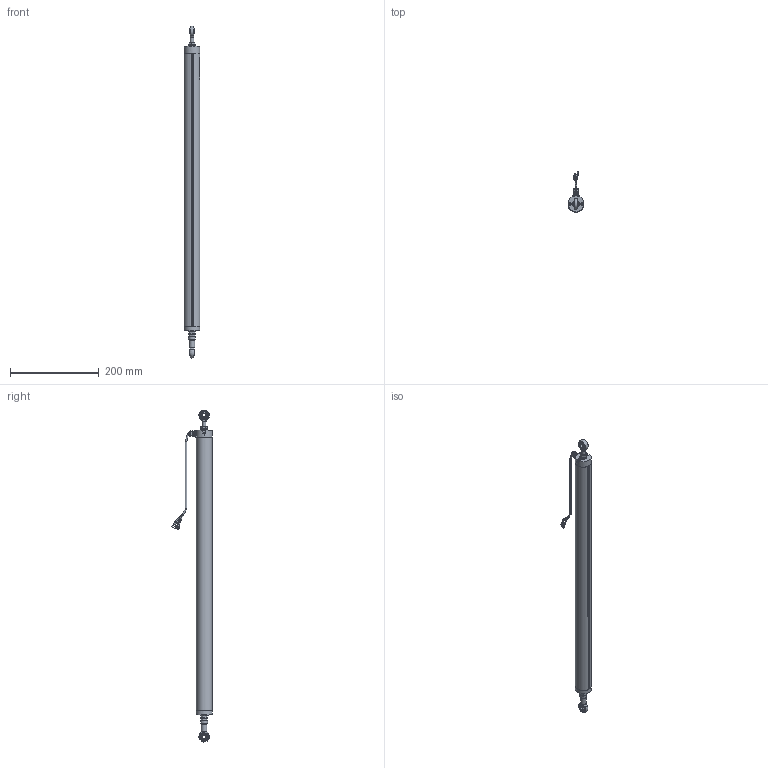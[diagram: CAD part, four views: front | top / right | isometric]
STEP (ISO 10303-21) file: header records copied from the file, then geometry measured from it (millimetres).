
FILE_DESCRIPTION(/* description */ (''),/* implementation_level */ '2;1');
FILE_NAME(/* name */ 'C:\Users\Justin\Documents\CAD\The Sensor Connection\LPPS\LPPS-36B Series\3D\LPPS-36B-550\LPPS 36B-550 Assembly.stp',/* time_stamp */ '2020-09-18T15:02:38-04:00',/* author */ ('Justin'),/* organization */ (''),/* preprocessor_version */ 'ST-DEVELOPER v18.1',/* originating_system */ 'Autodesk Inventor 2021',/* authorisation */ '');
FILE_SCHEMA (('AUTOMOTIVE_DESIGN { 1 0 10303 214 3 1 1 }'));
Length unit declared in the file: inch
Products named in the file (3): LPPS 36B-550 Assembly; LPPS 36B-550 Shaft_Shrinkwrap; LPPS 36B-550_Shrinkwrap
Assembly tree (2 placements, depth 2):
  LPPS 36B-550 Assembly
    LPPS 36B-550 Shaft_Shrinkwrap
    LPPS 36B-550_Shrinkwrap
Bounding box: 36.05 x 90.87 x 749.86 mm (x, y, z)
Volume: 222474.5 mm3; surface area: 187382.5 mm2
Topology: 27 solids, 27 shells, 1058 faces, 2601 edges, 1671 vertices
Faces by surface type: plane 468, cylinder 257, bspline 195, torus 73, cone 60, sphere 5
Full cylindrical faces by diameter (mm): 1.236 x3, 2.5 x2, 3 x6, 3.175 x3, 3.5 x5, 3.708 x1, 5 x3, 5.5 x1, 6 x2, 6.647 x1, 7 x3, 8 x11, 8.1 x1, 8.4 x1, 9 x1, 10 x1, 11 x1, 12.5 x1, 15 x4, 15.8 x1, 16 x1, 18.5 x3, 36 x1
Entity records: 37563 total; most frequent: CARTESIAN_POINT 12071, ORIENTED_EDGE 5202, DIRECTION 4715, EDGE_CURVE 2601, AXIS2_PLACEMENT_3D 1782, VERTEX_POINT 1671, EDGE_LOOP 1175, LINE 1151
